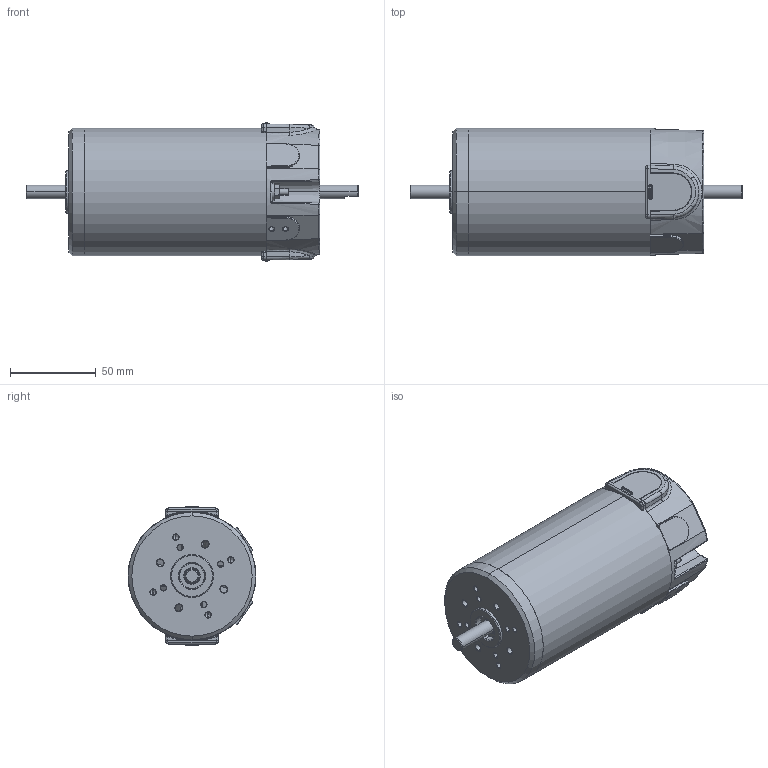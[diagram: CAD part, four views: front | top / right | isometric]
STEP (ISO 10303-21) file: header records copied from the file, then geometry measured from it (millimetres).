
FILE_DESCRIPTION (( 'STEP AP214' ), '1' );
FILE_NAME ('BRx70-60.STEP', '2021-11-09T11:46:25', ( '' ), ( '' ), 'SwSTEP 2.0', 'SolidWorks 2020', '' );
FILE_SCHEMA (( 'AUTOMOTIVE_DESIGN' ));
Length unit declared in the file: millimetre
Products named in the file (1): BRx70-60
Bounding box: 193.2 x 74.38 x 81.21 mm (x, y, z)
Surface area: 164044.8 mm2 (no closed solid volume)
Topology: 0 solids, 36 shells, 3171 faces, 8206 edges, 5040 vertices
Faces by surface type: cylinder 1056, bspline 871, plane 679, torus 254, cone 251, sphere 60
Entity records: 154789 total; most frequent: CARTESIAN_POINT 50371, ORIENTED_EDGE 15914, DIRECTION 13058, EDGE_CURVE 8122, AXIS2_PLACEMENT_3D 5108, VERTEX_POINT 5040, EDGE_LOOP 3294, UNCERTAINTY_MEASURE_WITH_UNIT 3195
